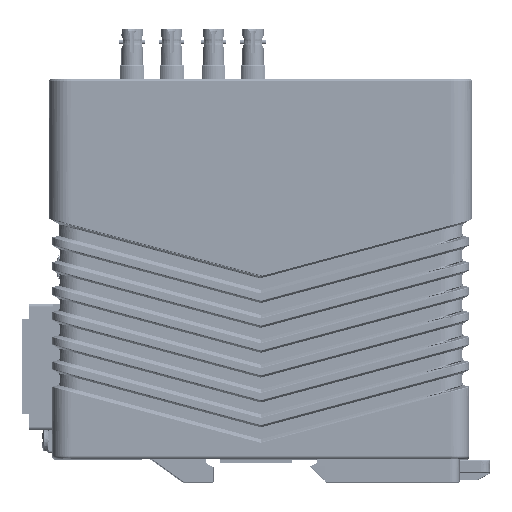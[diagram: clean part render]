
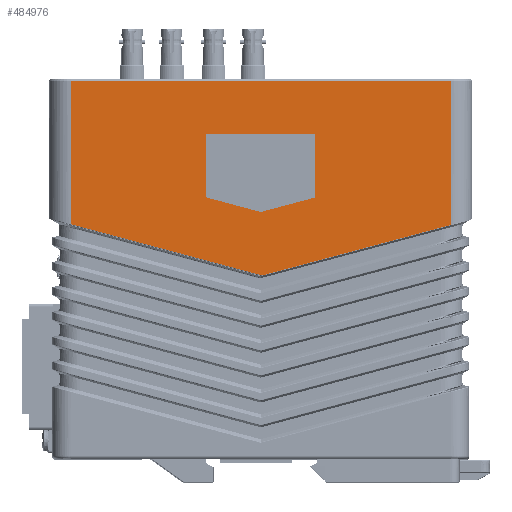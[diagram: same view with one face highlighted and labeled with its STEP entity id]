
A CAD part, left-side view. The second image highlights one B-rep face of the part: STEP entity #484976.
In plain terms, the highlighted planar face has unit normal (-1, 0, 0).
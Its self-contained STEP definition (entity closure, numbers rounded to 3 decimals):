
#11043 = LINE ( 'NONE', #144240, #189828 ) ;
#23575 = LINE ( 'NONE', #346139, #159801 ) ;
#36561 = FACE_OUTER_BOUND ( 'NONE', #391706, .T. ) ;
#46135 = AXIS2_PLACEMENT_3D ( 'NONE', #308762, #217004, #297024 ) ;
#53588 = VERTEX_POINT ( 'NONE', #447394 ) ;
#54688 = LINE ( 'NONE', #527980, #312968 ) ;
#54909 = ORIENTED_EDGE ( 'NONE', *, *, #292631, .T. ) ;
#57093 = DIRECTION ( 'NONE',  ( 0., 0., -1. ) ) ;
#72198 = EDGE_CURVE ( 'NONE', #53588, #430591, #101458, .T. ) ;
#73840 = DIRECTION ( 'NONE',  ( 0., -0.966, -0.259 ) ) ;
#74166 = DIRECTION ( 'NONE',  ( 0., 0.966, -0.259 ) ) ;
#87002 = DIRECTION ( 'NONE',  ( 0., 0., -1. ) ) ;
#87090 = ORIENTED_EDGE ( 'NONE', *, *, #152239, .F. ) ;
#89403 = ORIENTED_EDGE ( 'NONE', *, *, #451823, .F. ) ;
#93241 = EDGE_CURVE ( 'NONE', #430591, #505806, #393774, .T. ) ;
#101458 = LINE ( 'NONE', #282086, #276255 ) ;
#108225 = VECTOR ( 'NONE', #73840, 1000. ) ;
#124803 = CARTESIAN_POINT ( 'NONE',  ( -28.535, 0., -42.518 ) ) ;
#133361 = CARTESIAN_POINT ( 'NONE',  ( -28.535, 61.074, -0.354 ) ) ;
#138455 = CARTESIAN_POINT ( 'NONE',  ( -28.535, 17.5, -37.829 ) ) ;
#140729 = EDGE_LOOP ( 'NONE', ( #337882, #582052, #87090, #236332, #89403 ) ) ;
#144240 = CARTESIAN_POINT ( 'NONE',  ( -28.535, -17.5, -17.5 ) ) ;
#150168 = VERTEX_POINT ( 'NONE', #473907 ) ;
#152239 = EDGE_CURVE ( 'NONE', #538842, #390338, #311167, .T. ) ;
#159801 = VECTOR ( 'NONE', #301632, 1000. ) ;
#160853 = EDGE_CURVE ( 'NONE', #150168, #505806, #343203, .T. ) ;
#189828 = VECTOR ( 'NONE', #324760, 1000. ) ;
#194417 = LINE ( 'NONE', #499383, #560176 ) ;
#200670 = VERTEX_POINT ( 'NONE', #276613 ) ;
#217004 = DIRECTION ( 'NONE',  ( 1., 0., 0. ) ) ;
#220673 = VERTEX_POINT ( 'NONE', #138455 ) ;
#222300 = CARTESIAN_POINT ( 'NONE',  ( -28.535, 0., -42.518 ) ) ;
#224294 = CARTESIAN_POINT ( 'NONE',  ( -28.535, 17.5, -17.5 ) ) ;
#236332 = ORIENTED_EDGE ( 'NONE', *, *, #331332, .F. ) ;
#240383 = VERTEX_POINT ( 'NONE', #492811 ) ;
#261372 = PLANE ( 'NONE',  #46135 ) ;
#276255 = VECTOR ( 'NONE', #57093, 1000. ) ;
#276449 = CARTESIAN_POINT ( 'NONE',  ( -28.535, -17.5, -37.829 ) ) ;
#276613 = CARTESIAN_POINT ( 'NONE',  ( -28.535, 61.074, -0.354 ) ) ;
#277383 = DIRECTION ( 'NONE',  ( 0., 0., -1. ) ) ;
#282086 = CARTESIAN_POINT ( 'NONE',  ( -28.535, -61.07, 0.25 ) ) ;
#292631 = EDGE_CURVE ( 'NONE', #200670, #150168, #194417, .T. ) ;
#293711 = VERTEX_POINT ( 'NONE', #224294 ) ;
#297024 = DIRECTION ( 'NONE',  ( 0., 1., 0. ) ) ;
#301632 = DIRECTION ( 'NONE',  ( 0., 0., 1. ) ) ;
#301999 = CARTESIAN_POINT ( 'NONE',  ( -28.535, 41.16, -74.069 ) ) ;
#306224 = EDGE_CURVE ( 'NONE', #390338, #240383, #23575, .T. ) ;
#308762 = CARTESIAN_POINT ( 'NONE',  ( -28.535, 61.074, 0.25 ) ) ;
#311167 = LINE ( 'NONE', #222300, #516393 ) ;
#312968 = VECTOR ( 'NONE', #480511, 1000. ) ;
#314050 = DIRECTION ( 'NONE',  ( 0., -0.966, 0.259 ) ) ;
#321736 = EDGE_CURVE ( 'NONE', #53588, #200670, #580473, .T. ) ;
#324760 = DIRECTION ( 'NONE',  ( 0., 1., 0. ) ) ;
#331332 = EDGE_CURVE ( 'NONE', #220673, #538842, #54688, .T. ) ;
#337882 = ORIENTED_EDGE ( 'NONE', *, *, #358876, .F. ) ;
#343203 = LINE ( 'NONE', #574122, #108225 ) ;
#345406 = VECTOR ( 'NONE', #87002, 1000. ) ;
#346139 = CARTESIAN_POINT ( 'NONE',  ( -28.535, -17.5, -37.829 ) ) ;
#347389 = FACE_BOUND ( 'NONE', #140729, .T. ) ;
#358876 = EDGE_CURVE ( 'NONE', #240383, #293711, #11043, .T. ) ;
#364180 = DIRECTION ( 'NONE',  ( 0., 1., 0. ) ) ;
#375604 = VECTOR ( 'NONE', #74166, 1000. ) ;
#379427 = ORIENTED_EDGE ( 'NONE', *, *, #160853, .T. ) ;
#390338 = VERTEX_POINT ( 'NONE', #276449 ) ;
#391706 = EDGE_LOOP ( 'NONE', ( #54909, #379427, #501364, #495410, #519914 ) ) ;
#393774 = LINE ( 'NONE', #301999, #375604 ) ;
#419135 = CARTESIAN_POINT ( 'NONE',  ( -28.535, -61.07, -46.676 ) ) ;
#430591 = VERTEX_POINT ( 'NONE', #419135 ) ;
#447394 = CARTESIAN_POINT ( 'NONE',  ( -28.535, -61.07, -0.354 ) ) ;
#451823 = EDGE_CURVE ( 'NONE', #293711, #220673, #528179, .T. ) ;
#473907 = CARTESIAN_POINT ( 'NONE',  ( -28.535, 61.074, -46.416 ) ) ;
#480511 = DIRECTION ( 'NONE',  ( 0., -0.966, -0.259 ) ) ;
#484976 = ADVANCED_FACE ( 'NONE', ( #347389, #36561 ), #261372, .F. ) ;
#492811 = CARTESIAN_POINT ( 'NONE',  ( -28.535, -17.5, -17.5 ) ) ;
#495410 = ORIENTED_EDGE ( 'NONE', *, *, #72198, .F. ) ;
#499383 = CARTESIAN_POINT ( 'NONE',  ( -28.535, 61.074, 0.25 ) ) ;
#501364 = ORIENTED_EDGE ( 'NONE', *, *, #93241, .F. ) ;
#505806 = VERTEX_POINT ( 'NONE', #514780 ) ;
#514780 = CARTESIAN_POINT ( 'NONE',  ( -28.535, -0.483, -62.911 ) ) ;
#516393 = VECTOR ( 'NONE', #314050, 1000. ) ;
#516473 = CARTESIAN_POINT ( 'NONE',  ( -28.535, 17.5, -17.5 ) ) ;
#519914 = ORIENTED_EDGE ( 'NONE', *, *, #321736, .T. ) ;
#527980 = CARTESIAN_POINT ( 'NONE',  ( -28.535, 17.5, -37.829 ) ) ;
#528179 = LINE ( 'NONE', #516473, #345406 ) ;
#538842 = VERTEX_POINT ( 'NONE', #124803 ) ;
#560176 = VECTOR ( 'NONE', #277383, 1000. ) ;
#574122 = CARTESIAN_POINT ( 'NONE',  ( -28.535, -0.065, -62.799 ) ) ;
#574283 = VECTOR ( 'NONE', #364180, 1000. ) ;
#580473 = LINE ( 'NONE', #133361, #574283 ) ;
#582052 = ORIENTED_EDGE ( 'NONE', *, *, #306224, .F. ) ;
